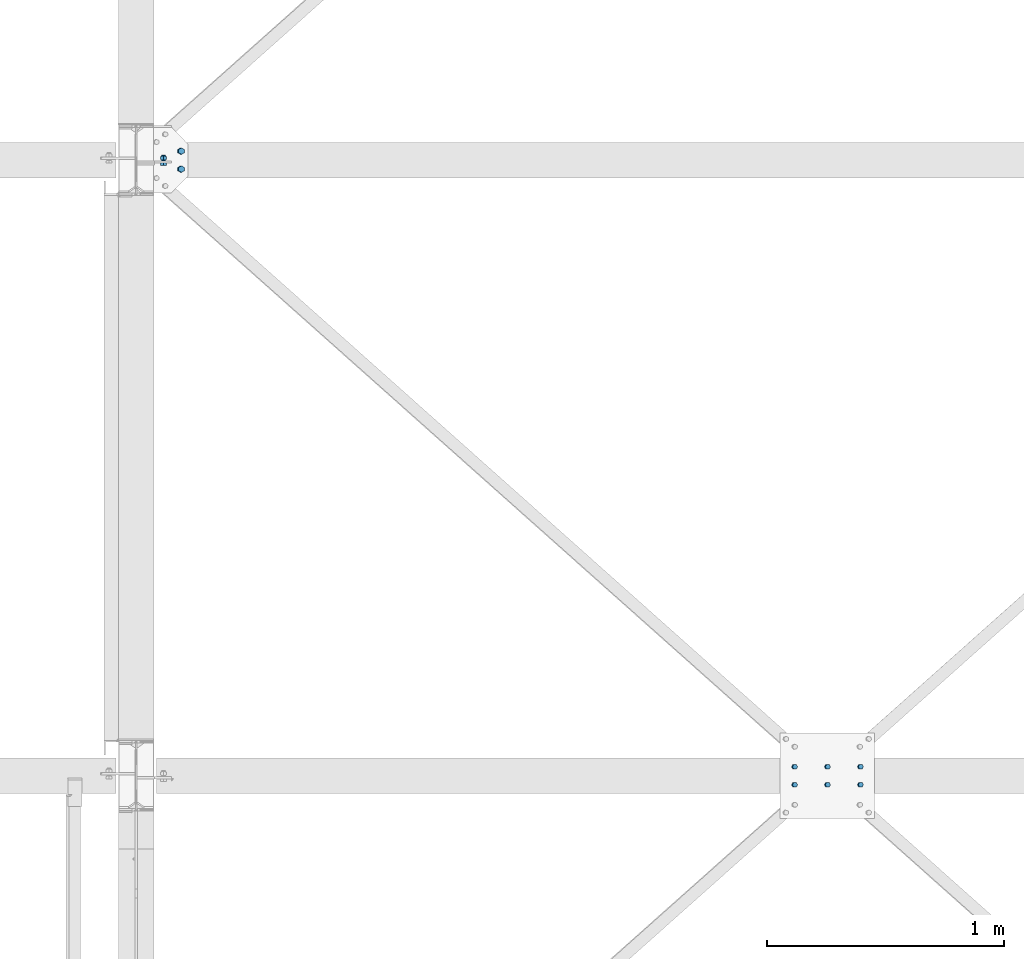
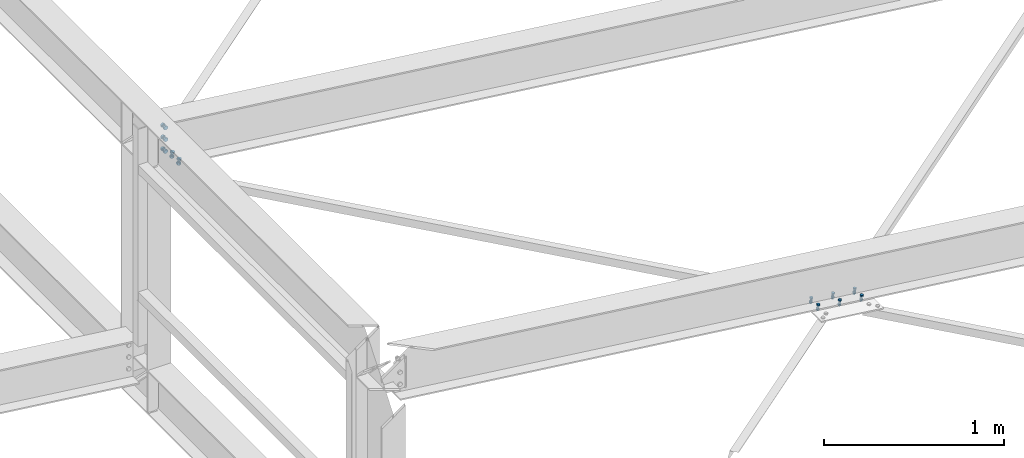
# One storey, part 263 of 3134: 3 mechanical fasteners, 2 elements without a shape of their own.
"""IFC2X3 building model written with IfcOpenShell, lengths in millimetres."""

from ifc_helpers import new_model, si_unit, frame, origin_with_axes, place, context, subcontext, project, spatial, faceted_brep, source, transform, mapped, material, type_object, element, aggregate, save


model = new_model("IFC2X3")

# Units and contexts
model_context = context("Model", 3, precision=1e-05, world=origin_with_axes())
body_context = subcontext(model_context, "Body", "Model", "MODEL_VIEW")
ifc_project = project(units=[si_unit("LENGTHUNIT", "METRE", prefix="MILLI"), si_unit("AREAUNIT", "SQUARE_METRE"), si_unit("VOLUMEUNIT", "CUBIC_METRE"), si_unit("MASSUNIT", "GRAM", prefix="KILO"), si_unit("TIMEUNIT", "SECOND"), si_unit("PLANEANGLEUNIT", "RADIAN"), si_unit("SOLIDANGLEUNIT", "STERADIAN"), si_unit("THERMODYNAMICTEMPERATUREUNIT", "DEGREE_CELSIUS"), si_unit("LUMINOUSINTENSITYUNIT", "LUMEN")], contexts=[model_context])

# Site, building, storey
site_placement = place(None, origin_with_axes())
site = spatial("IfcSite", under=ifc_project, at=site_placement, CompositionType="ELEMENT")
building_placement = place(site_placement, origin_with_axes())
building = spatial("IfcBuilding", under=site, at=building_placement, Name="Undefined", CompositionType="ELEMENT")
storey_placement = place(building_placement, origin_with_axes())
storey = spatial("IfcBuildingStorey", under=building, at=storey_placement, Name="Undefined", CompositionType="ELEMENT", Elevation=0.0)

# Assembly, mechanical fastener
assembly_1_placement = place(storey_placement, origin_with_axes())
assembly_1 = element("IfcElementAssembly", 1, at=assembly_1_placement, inside=storey, Name="300", AssemblyPlace="NOTDEFINED", PredefinedType="RIGID_FRAME")
ifc_material = material(Name="8.8")
mechanical_fastener_type = type_object("IfcMechanicalFastenerType", Name="Bolt assembly")
shared_shape_1 = source(origin_with_axes(), body_context, "Body", "Brep", [
    faceted_brep([(13.856406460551, -19.199990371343, 0.0), (6.92820323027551, -19.199990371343, 12.0), (-6.92820323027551, -19.199990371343, 12.0), (-13.856406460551, -19.199990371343, 1.69692038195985e-15), (-6.92820323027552, -19.199990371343, -12.0), (6.9282032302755, -19.199990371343, -12.0), (6.9282032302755, -9.19999037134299, -12.0), (-6.92820323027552, -9.19999037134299, -12.0), (-13.856406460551, -9.19999037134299, 1.69692038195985e-15), (-6.92820323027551, -9.19999037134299, 12.0), (6.92820323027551, -9.19999037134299, 12.0), (13.856406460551, -9.19999037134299, 0.0), (8.0, -9.19999037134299, 0.0), (6.92820323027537, -9.19999037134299, 4.00000000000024), (3.99999999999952, -9.19999037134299, 6.92820323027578), (-8.29068785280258e-13, -9.19999037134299, 8.0), (-4.00000000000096, -9.19999037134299, 6.92820323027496), (-6.9282032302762, -9.19999037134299, 3.99999999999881), (-8.0, -9.19999037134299, -1.65813757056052e-12), (-6.92820323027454, -9.19999037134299, -4.00000000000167), (-3.99999999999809, -9.19999037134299, -6.92820323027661), (2.47832457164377e-12, -9.19999037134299, -8.0), (4.00000000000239, -9.19999037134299, -6.92820323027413), (6.92820323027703, -9.19999037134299, -3.99999999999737), (6.92820323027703, 25.800009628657, -3.99999999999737), (4.00000000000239, 25.800009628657, -6.92820323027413), (2.47832457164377e-12, 25.800009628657, -8.0), (-3.99999999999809, 25.800009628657, -6.92820323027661), (-6.92820323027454, 25.800009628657, -4.00000000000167), (-8.0, 25.800009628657, -1.65813757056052e-12), (-6.9282032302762, 25.800009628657, 3.99999999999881), (-4.00000000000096, 25.800009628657, 6.92820323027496), (-8.29068785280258e-13, 25.800009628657, 8.0), (3.99999999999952, 25.800009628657, 6.92820323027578), (6.92820323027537, 25.800009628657, 4.00000000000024), (8.0, 25.800009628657, 0.0), (13.856406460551, 8.00000637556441, 0.0), (6.92820323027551, 8.00000637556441, 12.0), (-6.92820323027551, 8.00000637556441, 12.0), (-13.856406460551, 8.00000637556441, 1.69692038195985e-15), (-6.92820323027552, 8.00000637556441, -12.0), (6.9282032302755, 8.00000637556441, -12.0), (6.9282032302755, 21.0000063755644, -12.0), (-6.92820323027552, 21.0000063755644, -12.0), (-13.856406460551, 21.0000063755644, 1.69692038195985e-15), (-6.92820323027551, 21.0000063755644, 12.0), (6.92820323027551, 21.0000063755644, 12.0), (13.856406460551, 21.0000063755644, 0.0)], [[[0, 1, 2, 3, 4, 5]], [[6, 7, 8, 9, 10, 11]], [[0, 11, 10, 1]], [[1, 10, 9, 2]], [[2, 9, 8, 3]], [[3, 8, 7, 4]], [[4, 7, 6, 5]], [[5, 6, 11, 0]], [[12, 13, 14, 15, 16, 17, 18, 19, 20, 21, 22, 23]], [[24, 25, 26, 27, 28, 29, 30, 31, 32, 33, 34, 35]], [[12, 35, 34, 13]], [[13, 34, 33, 14]], [[14, 33, 32, 15]], [[15, 32, 31, 16]], [[16, 31, 30, 17]], [[17, 30, 29, 18]], [[18, 29, 28, 19]], [[19, 28, 27, 20]], [[20, 27, 26, 21]], [[21, 26, 25, 22]], [[22, 25, 24, 23]], [[23, 24, 35, 12]], [[36, 37, 38, 39, 40, 41]], [[42, 43, 44, 45, 46, 47]], [[36, 47, 46, 37]], [[37, 46, 45, 38]], [[38, 45, 44, 39]], [[39, 44, 43, 40]], [[40, 43, 42, 41]], [[41, 42, 47, 36]]]),
    faceted_brep([(9.0, -0.1, 0.0), (7.79422863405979, -0.1, 4.50000000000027), (4.49999999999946, -0.1, 7.79422863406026), (-9.3270238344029e-13, -0.1, 9.0), (-4.50000000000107, -0.1, 7.79422863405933), (-7.79422863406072, -0.1, 4.49999999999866), (-9.0, -0.1, -1.86540476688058e-12), (-7.79422863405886, -0.1, -4.50000000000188), (-4.49999999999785, -0.1, -7.79422863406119), (2.78811514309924e-12, -0.1, -9.0), (4.50000000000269, -0.1, -7.7942286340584), (7.79422863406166, -0.1, -4.49999999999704), (7.79422863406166, 8.00000000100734, -4.49999999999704), (4.50000000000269, 8.00000000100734, -7.7942286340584), (2.78811514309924e-12, 8.00000000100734, -9.0), (-4.49999999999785, 8.00000000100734, -7.79422863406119), (-7.79422863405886, 8.00000000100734, -4.50000000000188), (-9.0, 8.00000000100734, -1.86540476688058e-12), (-7.79422863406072, 8.00000000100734, 4.49999999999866), (-4.50000000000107, 8.00000000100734, 7.79422863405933), (-9.3270238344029e-13, 8.00000000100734, 9.0), (4.49999999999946, 8.00000000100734, 7.79422863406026), (7.79422863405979, 8.00000000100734, 4.50000000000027), (9.0, 8.00000000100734, 0.0), (9.0, -9.09999037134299, 0.0), (7.79422863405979, -9.09999037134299, 4.50000000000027), (4.49999999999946, -9.09999037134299, 7.79422863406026), (-9.3270238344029e-13, -9.09999037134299, 9.0), (-4.50000000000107, -9.09999037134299, 7.79422863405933), (-7.79422863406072, -9.09999037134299, 4.49999999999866), (-9.0, -9.09999037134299, -1.86540476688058e-12), (-7.79422863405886, -9.09999037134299, -4.50000000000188), (-4.49999999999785, -9.09999037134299, -7.79422863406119), (2.78811514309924e-12, -9.09999037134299, -9.0), (4.50000000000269, -9.09999037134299, -7.7942286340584), (7.79422863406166, -9.09999037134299, -4.49999999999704), (7.79422863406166, 0.100000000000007, -4.49999999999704), (4.50000000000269, 0.100000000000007, -7.7942286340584), (2.78811514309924e-12, 0.100000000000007, -9.0), (-4.49999999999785, 0.100000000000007, -7.79422863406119), (-7.79422863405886, 0.100000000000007, -4.50000000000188), (-9.0, 0.100000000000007, -1.86540476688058e-12), (-7.79422863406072, 0.100000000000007, 4.49999999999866), (-4.50000000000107, 0.100000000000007, 7.79422863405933), (-9.3270238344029e-13, 0.100000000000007, 9.0), (4.49999999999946, 0.100000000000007, 7.79422863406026), (7.79422863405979, 0.100000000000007, 4.50000000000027), (9.0, 0.100000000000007, 0.0)], [[[0, 1, 2, 3, 4, 5, 6, 7, 8, 9, 10, 11]], [[12, 13, 14, 15, 16, 17, 18, 19, 20, 21, 22, 23]], [[0, 23, 22, 1]], [[1, 22, 21, 2]], [[2, 21, 20, 3]], [[3, 20, 19, 4]], [[4, 19, 18, 5]], [[5, 18, 17, 6]], [[6, 17, 16, 7]], [[7, 16, 15, 8]], [[8, 15, 14, 9]], [[9, 14, 13, 10]], [[10, 13, 12, 11]], [[11, 12, 23, 0]], [[24, 25, 26, 27, 28, 29, 30, 31, 32, 33, 34, 35]], [[36, 37, 38, 39, 40, 41, 42, 43, 44, 45, 46, 47]], [[24, 47, 46, 25]], [[25, 46, 45, 26]], [[26, 45, 44, 27]], [[27, 44, 43, 28]], [[28, 43, 42, 29]], [[29, 42, 41, 30]], [[30, 41, 40, 31]], [[31, 40, 39, 32]], [[32, 39, 38, 33]], [[33, 38, 37, 34]], [[34, 37, 36, 35]], [[35, 36, 47, 24]]]),
])
mechanical_fastener_1_placement = place(assembly_1_placement, frame((56064.2248161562, 45487.9995130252, 5496.68063428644), z_axis=(0.992623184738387, 1.63108538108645e-05, -0.12124031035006), x_axis=(1.62000016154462e-05, -0.999999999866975, -1.90000018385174e-06)))
mechanical_fastener_1 = element("IfcMechanicalFastener", 2, at=mechanical_fastener_1_placement, type_object=mechanical_fastener_type, material=ifc_material, Name="Bolt assembly", NominalDiameter=16.0, NominalLength=35.0, context=body_context, shape_type="MappedRepresentation", body=[
    mapped(shared_shape_1, transform((0.0, 0.0, 0.0))),
    mapped(shared_shape_1, transform((76.0, 0.0, 0.0))),
])

assembly_2_placement = place(storey_placement, origin_with_axes())
assembly_2 = element("IfcElementAssembly", 3, at=assembly_2_placement, inside=storey, Name="300", AssemblyPlace="NOTDEFINED", PredefinedType="RIGID_FRAME")
shared_shape_2 = source(origin_with_axes(), body_context, "Body", "Brep", [
    faceted_brep([(10.9696551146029, -17.1999998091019, 0.0), (5.48482755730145, -17.1999998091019, 9.5), (-5.48482755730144, -17.1999998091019, 9.5), (-10.9696551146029, -17.1999998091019, 1.34339530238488e-15), (-5.48482755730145, -17.1999998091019, -9.5), (5.48482755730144, -17.1999998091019, -9.50000000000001), (5.48482755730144, -9.19999978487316, -9.50000000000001), (-5.48482755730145, -9.19999978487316, -9.5), (-10.9696551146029, -9.19999978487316, 1.34339530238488e-15), (-5.48482755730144, -9.19999978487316, 9.5), (5.48482755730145, -9.19999978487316, 9.5), (10.9696551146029, -9.19999978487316, 0.0), (6.0, -9.19999978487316, 0.0), (5.19615242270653, -9.19999978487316, 3.00000000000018), (2.99999999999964, -9.19999978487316, 5.19615242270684), (-6.21801588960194e-13, -9.19999978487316, 6.0), (-3.00000000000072, -9.19999978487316, 5.19615242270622), (-5.19615242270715, -9.19999978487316, 2.9999999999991), (-6.0, -9.19999978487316, -1.24360317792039e-12), (-5.19615242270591, -9.19999978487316, -3.00000000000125), (-2.99999999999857, -9.19999978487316, -5.19615242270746), (1.85874342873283e-12, -9.19999978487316, -6.0), (3.00000000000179, -9.19999978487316, -5.1961524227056), (5.19615242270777, -9.19999978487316, -2.99999999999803), (5.19615242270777, 25.8000002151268, -2.99999999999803), (3.00000000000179, 25.8000002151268, -5.1961524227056), (1.85874342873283e-12, 25.8000002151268, -6.0), (-2.99999999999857, 25.8000002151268, -5.19615242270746), (-5.19615242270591, 25.8000002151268, -3.00000000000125), (-6.0, 25.8000002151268, -1.24360317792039e-12), (-5.19615242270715, 25.8000002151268, 2.9999999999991), (-3.00000000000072, 25.8000002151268, 5.19615242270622), (-6.21801588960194e-13, 25.8000002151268, 6.0), (2.99999999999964, 25.8000002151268, 5.19615242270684), (5.19615242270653, 25.8000002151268, 3.00000000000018), (6.0, 25.8000002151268, 0.0), (10.9696551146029, 8.0, 0.0), (5.48482755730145, 8.0, 9.5), (-5.48482755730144, 8.0, 9.5), (-10.9696551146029, 8.0, 1.34339530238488e-15), (-5.48482755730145, 8.0, -9.5), (5.48482755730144, 8.0, -9.50000000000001), (5.48482755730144, 18.0, -9.50000000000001), (-5.48482755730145, 18.0, -9.5), (-10.9696551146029, 18.0, 1.34339530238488e-15), (-5.48482755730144, 18.0, 9.5), (5.48482755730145, 18.0, 9.5), (10.9696551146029, 18.0, 0.0)], [[[0, 1, 2, 3, 4, 5]], [[6, 7, 8, 9, 10, 11]], [[0, 11, 10, 1]], [[1, 10, 9, 2]], [[2, 9, 8, 3]], [[3, 8, 7, 4]], [[4, 7, 6, 5]], [[5, 6, 11, 0]], [[12, 13, 14, 15, 16, 17, 18, 19, 20, 21, 22, 23]], [[24, 25, 26, 27, 28, 29, 30, 31, 32, 33, 34, 35]], [[12, 35, 34, 13]], [[13, 34, 33, 14]], [[14, 33, 32, 15]], [[15, 32, 31, 16]], [[16, 31, 30, 17]], [[17, 30, 29, 18]], [[18, 29, 28, 19]], [[19, 28, 27, 20]], [[20, 27, 26, 21]], [[21, 26, 25, 22]], [[22, 25, 24, 23]], [[23, 24, 35, 12]], [[36, 37, 38, 39, 40, 41]], [[42, 43, 44, 45, 46, 47]], [[36, 47, 46, 37]], [[37, 46, 45, 38]], [[38, 45, 44, 39]], [[39, 44, 43, 40]], [[40, 43, 42, 41]], [[41, 42, 47, 36]]]),
    faceted_brep([(7.0, -0.1, 0.0), (6.06217782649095, -0.1, 3.50000000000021), (3.49999999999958, -0.1, 6.06217782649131), (-7.25435187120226e-13, -0.1, 7.0), (-3.50000000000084, -0.1, 6.06217782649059), (-6.06217782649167, -0.1, 3.49999999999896), (-7.0, -0.1, -1.45087037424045e-12), (-6.06217782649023, -0.1, -3.50000000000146), (-3.49999999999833, -0.1, -6.06217782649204), (2.1685340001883e-12, -0.1, -7.0), (3.50000000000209, -0.1, -6.06217782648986), (6.0621778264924, -0.1, -3.4999999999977), (6.0621778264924, 8.0000000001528, -3.4999999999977), (3.50000000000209, 8.0000000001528, -6.06217782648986), (2.1685340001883e-12, 8.0000000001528, -7.0), (-3.49999999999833, 8.0000000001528, -6.06217782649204), (-6.06217782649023, 8.0000000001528, -3.50000000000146), (-7.0, 8.0000000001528, -1.45087037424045e-12), (-6.06217782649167, 8.0000000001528, 3.49999999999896), (-3.50000000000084, 8.0000000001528, 6.06217782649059), (-7.25435187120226e-13, 8.0000000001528, 7.0), (3.49999999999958, 8.0000000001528, 6.06217782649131), (6.06217782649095, 8.0000000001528, 3.50000000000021), (7.0, 8.0000000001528, 0.0), (7.0, -9.09999980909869, 0.0), (6.06217782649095, -9.09999980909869, 3.50000000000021), (3.49999999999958, -9.09999980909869, 6.06217782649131), (-7.25435187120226e-13, -9.09999980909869, 7.0), (-3.50000000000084, -9.09999980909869, 6.06217782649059), (-6.06217782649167, -9.09999980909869, 3.49999999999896), (-7.0, -9.09999980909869, -1.45087037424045e-12), (-6.06217782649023, -9.09999980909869, -3.50000000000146), (-3.49999999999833, -9.09999980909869, -6.06217782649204), (2.1685340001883e-12, -9.09999980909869, -7.0), (3.50000000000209, -9.09999980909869, -6.06217782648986), (6.0621778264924, -9.09999980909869, -3.4999999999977), (6.0621778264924, 0.0999999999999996, -3.4999999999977), (3.50000000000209, 0.0999999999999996, -6.06217782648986), (2.1685340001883e-12, 0.0999999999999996, -7.0), (-3.49999999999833, 0.0999999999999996, -6.06217782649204), (-6.06217782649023, 0.0999999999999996, -3.50000000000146), (-7.0, 0.0999999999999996, -1.45087037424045e-12), (-6.06217782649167, 0.0999999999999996, 3.49999999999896), (-3.50000000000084, 0.0999999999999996, 6.06217782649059), (-7.25435187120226e-13, 0.0999999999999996, 7.0), (3.49999999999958, 0.0999999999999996, 6.06217782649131), (6.06217782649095, 0.0999999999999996, 3.50000000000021), (7.0, 0.0999999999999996, 0.0)], [[[0, 1, 2, 3, 4, 5, 6, 7, 8, 9, 10, 11]], [[12, 13, 14, 15, 16, 17, 18, 19, 20, 21, 22, 23]], [[0, 23, 22, 1]], [[1, 22, 21, 2]], [[2, 21, 20, 3]], [[3, 20, 19, 4]], [[4, 19, 18, 5]], [[5, 18, 17, 6]], [[6, 17, 16, 7]], [[7, 16, 15, 8]], [[8, 15, 14, 9]], [[9, 14, 13, 10]], [[10, 13, 12, 11]], [[11, 12, 23, 0]], [[24, 25, 26, 27, 28, 29, 30, 31, 32, 33, 34, 35]], [[36, 37, 38, 39, 40, 41, 42, 43, 44, 45, 46, 47]], [[24, 47, 46, 25]], [[25, 46, 45, 26]], [[26, 45, 44, 27]], [[27, 44, 43, 28]], [[28, 43, 42, 29]], [[29, 42, 41, 30]], [[30, 41, 40, 31]], [[31, 40, 39, 32]], [[32, 39, 38, 33]], [[33, 38, 37, 34]], [[34, 37, 36, 35]], [[35, 36, 47, 24]]]),
])
mechanical_fastener_2_placement = place(assembly_2_placement, frame((58933.2022067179, 42850.0, 5146.25993624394), z_axis=(0.0, -1.0, 0.0), x_axis=(-0.992623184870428, 0.0, 0.121240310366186)))
mechanical_fastener_2 = element("IfcMechanicalFastener", 4, at=mechanical_fastener_2_placement, type_object=mechanical_fastener_type, material=ifc_material, Name="Bolt assembly", NominalDiameter=12.0, NominalLength=35.0, context=body_context, shape_type="MappedRepresentation", body=[
    mapped(shared_shape_2, transform((0.0, 0.0, -38.0))),
    mapped(shared_shape_2, transform((140.000000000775, 5.85714587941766e-10, -38.0))),
    mapped(shared_shape_2, transform((279.999999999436, -4.74756234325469e-10, -38.0))),
    mapped(shared_shape_2, transform((0.0, 0.0, 38.0))),
    mapped(shared_shape_2, transform((140.000000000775, 5.85714587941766e-10, 38.0))),
    mapped(shared_shape_2, transform((279.999999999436, -4.74756234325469e-10, 38.0))),
])
aggregate(assembly_2, [mechanical_fastener_2])

# Mechanical fastener
shared_shape_3 = source(origin_with_axes(), body_context, "Body", "Brep", [
    faceted_brep([(13.856406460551, -23.0499999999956, 0.0), (6.92820323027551, -23.0499999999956, 12.0), (-6.92820323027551, -23.0499999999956, 12.0), (-13.856406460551, -23.0499999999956, 1.69692038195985e-15), (-6.92820323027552, -23.0499999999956, -12.0), (6.9282032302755, -23.0499999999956, -12.0), (6.9282032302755, -13.0499999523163, -12.0), (-6.92820323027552, -13.0499999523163, -12.0), (-13.856406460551, -13.0499999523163, 1.69692038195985e-15), (-6.92820323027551, -13.0499999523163, 12.0), (6.92820323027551, -13.0499999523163, 12.0), (13.856406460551, -13.0499999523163, 0.0), (8.0, -13.0499999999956, 0.0), (6.92820323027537, -13.0499999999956, 4.00000000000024), (3.99999999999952, -13.0499999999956, 6.92820323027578), (-8.29068785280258e-13, -13.0499999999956, 8.0), (-4.00000000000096, -13.0499999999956, 6.92820323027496), (-6.9282032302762, -13.0499999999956, 3.99999999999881), (-8.0, -13.0499999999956, -1.65813757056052e-12), (-6.92820323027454, -13.0499999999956, -4.00000000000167), (-3.99999999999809, -13.0499999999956, -6.92820323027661), (2.47832457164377e-12, -13.0499999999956, -8.0), (4.00000000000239, -13.0499999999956, -6.92820323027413), (6.92820323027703, -13.0499999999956, -3.99999999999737), (6.92820323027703, 21.9500000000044, -3.99999999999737), (4.00000000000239, 21.9500000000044, -6.92820323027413), (2.47832457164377e-12, 21.9500000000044, -8.0), (-3.99999999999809, 21.9500000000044, -6.92820323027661), (-6.92820323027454, 21.9500000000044, -4.00000000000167), (-8.0, 21.9500000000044, -1.65813757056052e-12), (-6.9282032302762, 21.9500000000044, 3.99999999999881), (-4.00000000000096, 21.9500000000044, 6.92820323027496), (-8.29068785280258e-13, 21.9500000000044, 8.0), (3.99999999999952, 21.9500000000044, 6.92820323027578), (6.92820323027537, 21.9500000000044, 4.00000000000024), (8.0, 21.9500000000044, 0.0), (13.856406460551, 3.04999995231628, 0.0), (6.92820323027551, 3.04999995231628, 12.0), (-6.92820323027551, 3.04999995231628, 12.0), (-13.856406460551, 3.04999995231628, 1.69692038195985e-15), (-6.92820323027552, 3.04999995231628, -12.0), (6.9282032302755, 3.04999995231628, -12.0), (6.9282032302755, 16.0499999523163, -12.0), (-6.92820323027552, 16.0499999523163, -12.0), (-13.856406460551, 16.0499999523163, 1.69692038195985e-15), (-6.92820323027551, 16.0499999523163, 12.0), (6.92820323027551, 16.0499999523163, 12.0), (13.856406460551, 16.0499999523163, 0.0)], [[[0, 1, 2, 3, 4, 5]], [[6, 7, 8, 9, 10, 11]], [[0, 11, 10, 1]], [[1, 10, 9, 2]], [[2, 9, 8, 3]], [[3, 8, 7, 4]], [[4, 7, 6, 5]], [[5, 6, 11, 0]], [[12, 13, 14, 15, 16, 17, 18, 19, 20, 21, 22, 23]], [[24, 25, 26, 27, 28, 29, 30, 31, 32, 33, 34, 35]], [[12, 35, 34, 13]], [[13, 34, 33, 14]], [[14, 33, 32, 15]], [[15, 32, 31, 16]], [[16, 31, 30, 17]], [[17, 30, 29, 18]], [[18, 29, 28, 19]], [[19, 28, 27, 20]], [[20, 27, 26, 21]], [[21, 26, 25, 22]], [[22, 25, 24, 23]], [[23, 24, 35, 12]], [[36, 37, 38, 39, 40, 41]], [[42, 43, 44, 45, 46, 47]], [[36, 47, 46, 37]], [[37, 46, 45, 38]], [[38, 45, 44, 39]], [[39, 44, 43, 40]], [[40, 43, 42, 41]], [[41, 42, 47, 36]]]),
    faceted_brep([(9.0, -12.9499999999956, 0.0), (7.79422863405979, -12.9499999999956, 4.50000000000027), (4.49999999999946, -12.9499999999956, 7.79422863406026), (-9.3270238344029e-13, -12.9499999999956, 9.0), (-4.50000000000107, -12.9499999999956, 7.79422863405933), (-7.79422863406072, -12.9499999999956, 4.49999999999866), (-9.0, -12.9499999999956, -1.86540476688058e-12), (-7.79422863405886, -12.9499999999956, -4.50000000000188), (-4.49999999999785, -12.9499999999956, -7.79422863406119), (2.78811514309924e-12, -12.9499999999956, -9.0), (4.50000000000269, -12.9499999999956, -7.7942286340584), (7.79422863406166, -12.9499999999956, -4.49999999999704), (7.79422863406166, -2.94999995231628, -4.49999999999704), (4.50000000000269, -2.94999995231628, -7.7942286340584), (2.78811514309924e-12, -2.94999995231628, -9.0), (-4.49999999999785, -2.94999995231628, -7.79422863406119), (-7.79422863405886, -2.94999995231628, -4.50000000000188), (-9.0, -2.94999995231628, -1.86540476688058e-12), (-7.79422863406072, -2.94999995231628, 4.49999999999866), (-4.50000000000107, -2.94999995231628, 7.79422863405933), (-9.3270238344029e-13, -2.94999995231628, 9.0), (4.49999999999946, -2.94999995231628, 7.79422863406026), (7.79422863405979, -2.94999995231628, 4.50000000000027), (9.0, -2.94999995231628, 0.0), (9.0, -3.14999995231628, 0.0), (7.79422863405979, -3.14999995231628, 4.50000000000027), (4.49999999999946, -3.14999995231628, 7.79422863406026), (-9.3270238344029e-13, -3.14999995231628, 9.0), (-4.50000000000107, -3.14999995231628, 7.79422863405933), (-7.79422863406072, -3.14999995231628, 4.49999999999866), (-9.0, -3.14999995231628, -1.86540476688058e-12), (-7.79422863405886, -3.14999995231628, -4.50000000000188), (-4.49999999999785, -3.14999995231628, -7.79422863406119), (2.78811514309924e-12, -3.14999995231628, -9.0), (4.50000000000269, -3.14999995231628, -7.7942286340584), (7.79422863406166, -3.14999995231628, -4.49999999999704), (7.79422863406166, 3.04999995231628, -4.49999999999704), (4.50000000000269, 3.04999995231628, -7.7942286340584), (2.78811514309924e-12, 3.04999995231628, -9.0), (-4.49999999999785, 3.04999995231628, -7.79422863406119), (-7.79422863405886, 3.04999995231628, -4.50000000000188), (-9.0, 3.04999995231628, -1.86540476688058e-12), (-7.79422863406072, 3.04999995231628, 4.49999999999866), (-4.50000000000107, 3.04999995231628, 7.79422863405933), (-9.3270238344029e-13, 3.04999995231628, 9.0), (4.49999999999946, 3.04999995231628, 7.79422863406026), (7.79422863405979, 3.04999995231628, 4.50000000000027), (9.0, 3.04999995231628, 0.0)], [[[0, 1, 2, 3, 4, 5, 6, 7, 8, 9, 10, 11]], [[12, 13, 14, 15, 16, 17, 18, 19, 20, 21, 22, 23]], [[0, 23, 22, 1]], [[1, 22, 21, 2]], [[2, 21, 20, 3]], [[3, 20, 19, 4]], [[4, 19, 18, 5]], [[5, 18, 17, 6]], [[6, 17, 16, 7]], [[7, 16, 15, 8]], [[8, 15, 14, 9]], [[9, 14, 13, 10]], [[10, 13, 12, 11]], [[11, 12, 23, 0]], [[24, 25, 26, 27, 28, 29, 30, 31, 32, 33, 34, 35]], [[36, 37, 38, 39, 40, 41, 42, 43, 44, 45, 46, 47]], [[24, 47, 46, 25]], [[25, 46, 45, 26]], [[26, 45, 44, 27]], [[27, 44, 43, 28]], [[28, 43, 42, 29]], [[29, 42, 41, 30]], [[30, 41, 40, 31]], [[31, 40, 39, 32]], [[32, 39, 38, 33]], [[33, 38, 37, 34]], [[34, 37, 36, 35]], [[35, 36, 47, 24]]]),
])
mechanical_fastener_3_placement = place(assembly_1_placement, frame((55990.0, 45450.0, 5735.35014950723), z_axis=(1.0, 0.0, 0.0), x_axis=(0.0, 0.0, -1.0)))
mechanical_fastener_3 = element("IfcMechanicalFastener", 5, at=mechanical_fastener_3_placement, type_object=mechanical_fastener_type, material=ifc_material, Name="Bolt assembly", NominalDiameter=16.0, NominalLength=35.0, context=body_context, shape_type="MappedRepresentation", body=[
    mapped(shared_shape_3, transform((0.0, 0.0, 0.0))),
    mapped(shared_shape_3, transform((80.0, 0.0, 0.0))),
    mapped(shared_shape_3, transform((160.0, 0.0, 0.0))),
])

aggregate(assembly_1, [mechanical_fastener_1, mechanical_fastener_3])

save(model, "model.ifc")
